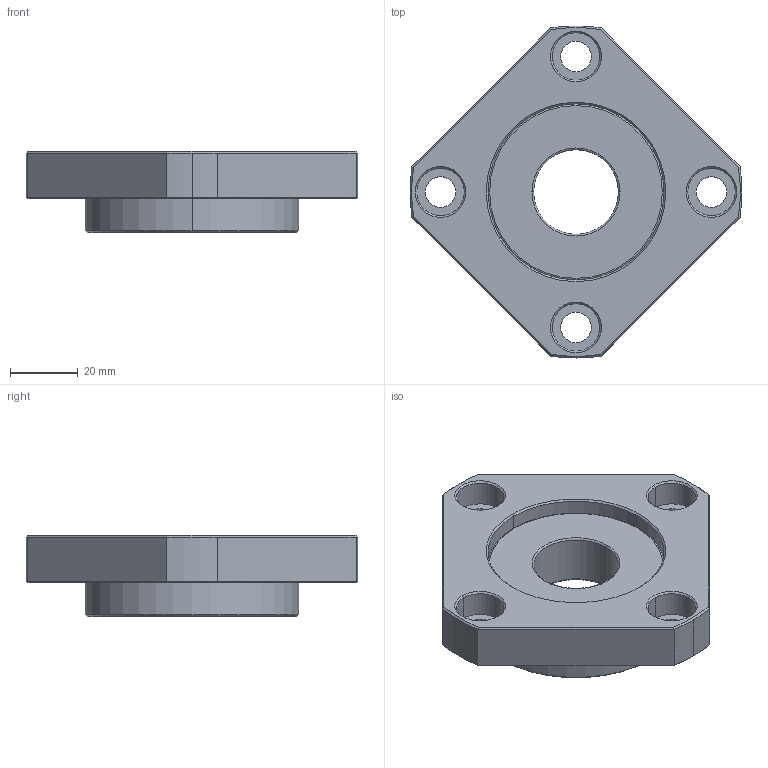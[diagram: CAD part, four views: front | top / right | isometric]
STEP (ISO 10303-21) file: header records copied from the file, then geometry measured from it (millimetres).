
FILE_DESCRIPTION (( 'STEP AP203' ), '1' );
FILE_NAME ('FSGF-25_203.STEP', '2013-02-28T00:10:10', ( '' ), ( '' ), 'SwSTEP 2.0', 'SolidWorks 2012', '' );
FILE_SCHEMA (( 'CONFIG_CONTROL_DESIGN' ));
Length unit declared in the file: millimetre
Products named in the file (1): FSGF-25_203
Bounding box: 97.87 x 98 x 24 mm (x, y, z)
Volume: 82655.1 mm3; surface area: 21238.9 mm2
Topology: 1 solids, 1 shells, 82 faces, 186 edges, 113 vertices
Faces by surface type: cylinder 29, cone 24, plane 21, torus 8
Entity records: 2424 total; most frequent: DIRECTION 441, CARTESIAN_POINT 430, ORIENTED_EDGE 372, AXIS2_PLACEMENT_3D 188, EDGE_CURVE 186, VERTEX_POINT 113, CIRCLE 105, EDGE_LOOP 99
